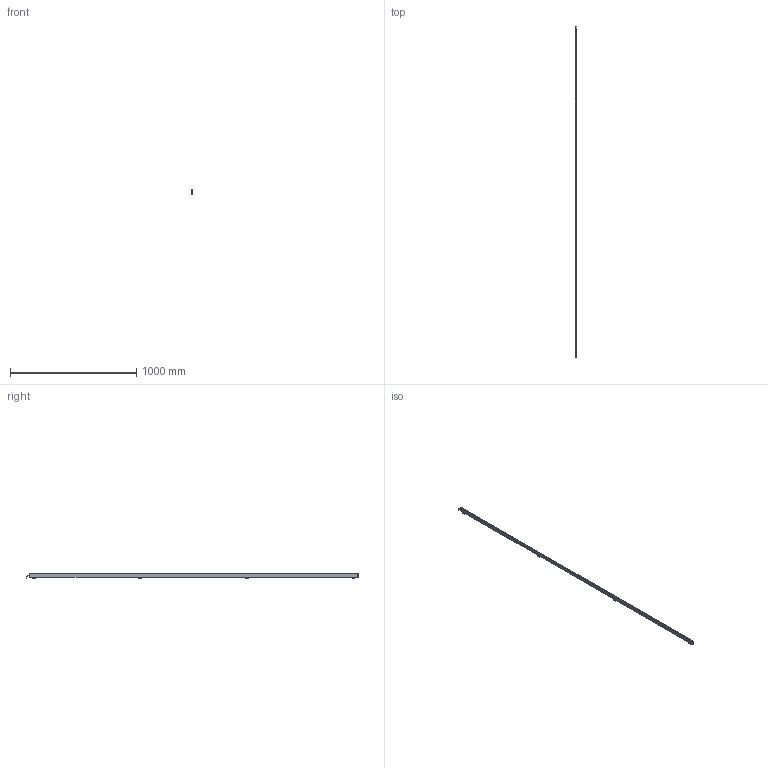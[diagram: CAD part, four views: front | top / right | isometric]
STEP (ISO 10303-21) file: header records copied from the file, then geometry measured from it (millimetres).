
FILE_DESCRIPTION (( 'STEP AP214' ), '1' );
FILE_NAME ('ILG-N-K1-2597mm.STEP', '2017-07-10T13:39:30', ( '' ), ( '' ), 'SwSTEP 2.0', 'SolidWorks 2016', '' );
FILE_SCHEMA (( 'AUTOMOTIVE_DESIGN' ));
Length unit declared in the file: millimetre
Products named in the file (1): ILG-N-K1-2597mm
Bounding box: 10.2 x 2625.25 x 42.41 mm (x, y, z)
Volume: 290787.6 mm3; surface area: 431761.7 mm2
Topology: 13 solids, 13 shells, 573 faces, 1449 edges, 896 vertices
Faces by surface type: plane 329, cylinder 170, cone 64, torus 10
Entity records: 23504 total; most frequent: CARTESIAN_POINT 3067, DIRECTION 2993, ORIENTED_EDGE 2882, EDGE_CURVE 1441, AXIS2_PLACEMENT_3D 1030, LINE 933, VECTOR 933, VERTEX_POINT 896
